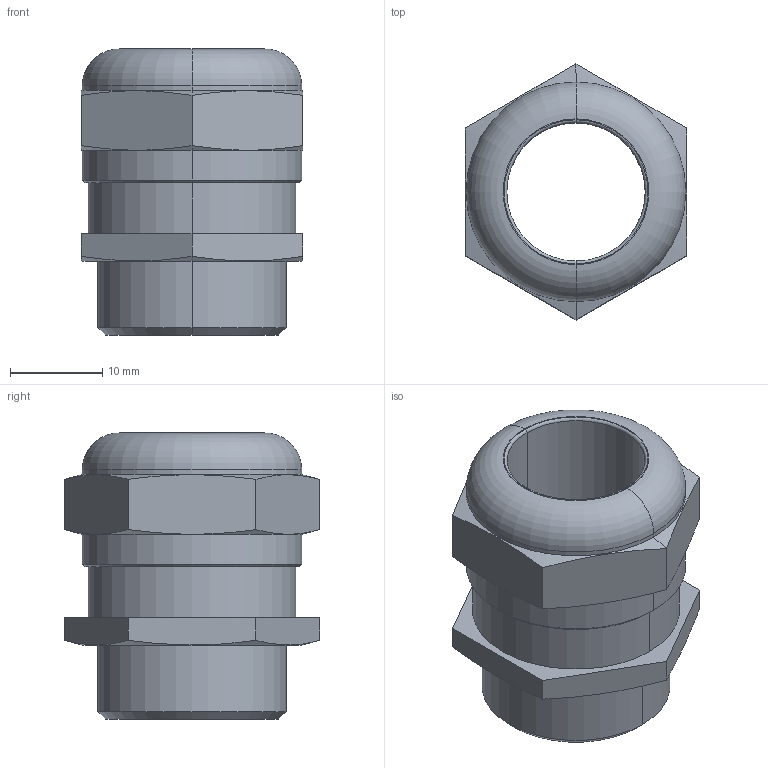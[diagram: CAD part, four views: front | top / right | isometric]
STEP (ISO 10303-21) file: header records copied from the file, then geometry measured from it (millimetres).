
FILE_DESCRIPTION (( 'STEP AP203' ), '1' );
FILE_NAME ('101380-8-15.STEP', '2006-10-12T13:11:36', ( ' ' ), ( '' ), 'SwSTEP 2.0', 'SolidWorks 2005278', '' );
FILE_SCHEMA (( 'CONFIG_CONTROL_DESIGN' ));
Length unit declared in the file: millimetre
Products named in the file (1): 101380-8-15
Bounding box: 24 x 27.71 x 31 mm (x, y, z)
Volume: 7334.4 mm3; surface area: 4370.7 mm2
Topology: 1 solids, 1 shells, 78 faces, 192 edges, 122 vertices
Faces by surface type: plane 54, cone 10, cylinder 10, torus 4
Entity records: 2461 total; most frequent: CARTESIAN_POINT 543, ORIENTED_EDGE 384, DIRECTION 366, EDGE_CURVE 192, VECTOR 140, LINE 140, VERTEX_POINT 122, AXIS2_PLACEMENT_3D 113
